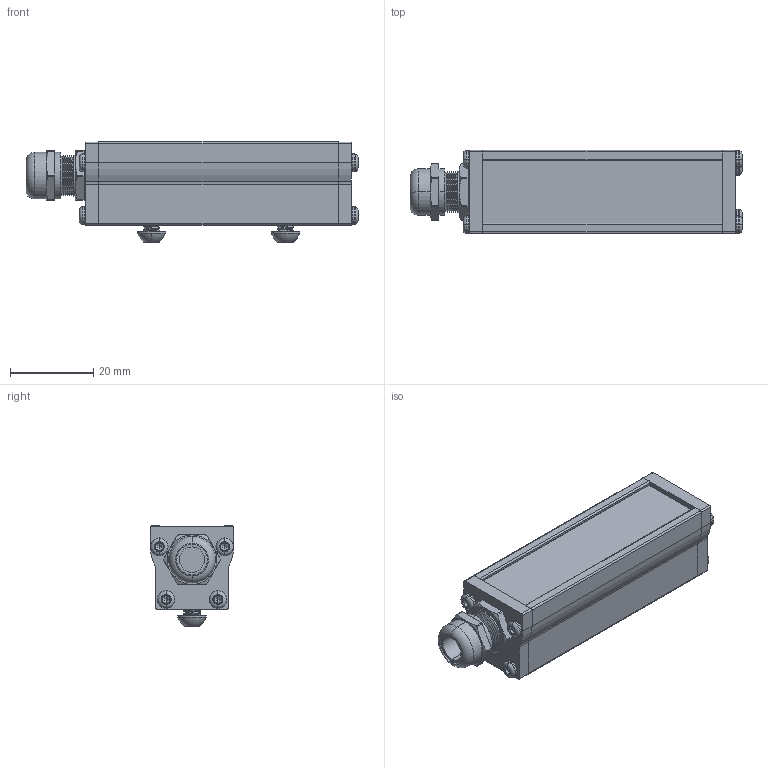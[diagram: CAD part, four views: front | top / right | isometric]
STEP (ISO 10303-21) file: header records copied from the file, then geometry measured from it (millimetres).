
FILE_DESCRIPTION (( 'STEP AP214' ), '1' );
FILE_NAME ('AL126 _NONSEALED__AL12602.stp', '2021-04-29T14:24:52', ( '' ), ( '' ), 'SwSTEP 2.0', 'SolidWorks 2018', '' );
FILE_SCHEMA (( 'AUTOMOTIVE_DESIGN' ));
Length unit declared in the file: inch
Products named in the file (15): HN-M4_90592A016; 090877-XX_090877-02; 090889-XX_090889-02; 093474_093474; 10mm Advanced illumination; BH-M4x6; 091052 (116 126); AL126 _NONSEALED__AL12602; 093469_093469; 091064_Model_Dome Fittings_Thread Type and Size(Dome)_M10 x 1.5_Hazardous Location-Explosive Proof(ATEX and EExe Versions)_No_; 090875; 10mm Label (116 126)_Default<As Machined>; 10mm Swish_Default<As Machined>; 10mm Ai; 090876
Assembly tree (24 placements, depth 3):
  AL126 _NONSEALED__AL12602
    090889-XX_090889-02
    090877-XX_090877-02
    090875
    090876
    093474_093474  x8
    093469_093469  x2
    091064_Model_Dome Fittings_Thread Type and Size(Dome)_M10 x 1.5_Hazardous Location-Explosive Proof(ATEX and EExe Versions)_No_
    HN-M4_90592A016  x2
    BH-M4x6  x2
    091052 (116 126)
      10mm Label (116 126)_Default<As Machined>
      10mm Ai
      10mm Swish_Default<As Machined>
      10mm Advanced illumination
Bounding box: 79.93 x 20.02 x 24.1 mm (x, y, z)
Volume: 11395.7 mm3; surface area: 17234.6 mm2
Topology: 48 solids, 48 shells, 1877 faces, 4840 edges, 3010 vertices
Faces by surface type: cylinder 934, plane 401, cone 362, bspline 120, torus 60
Entity records: 30293 total; most frequent: CARTESIAN_POINT 10456, ORIENTED_EDGE 4076, DIRECTION 3580, EDGE_CURVE 2038, VERTEX_POINT 1298, AXIS2_PLACEMENT_3D 1276, LINE 1028, VECTOR 1028
